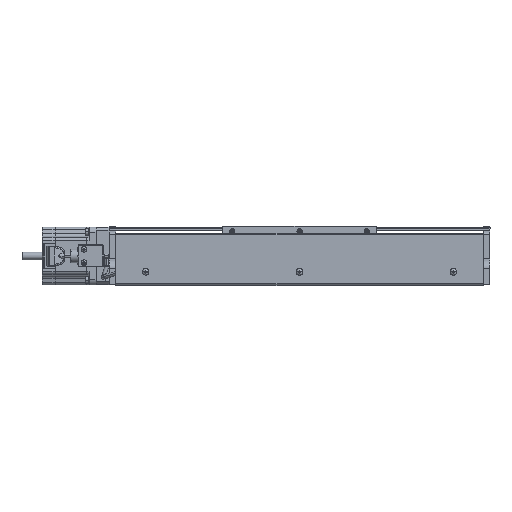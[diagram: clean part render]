
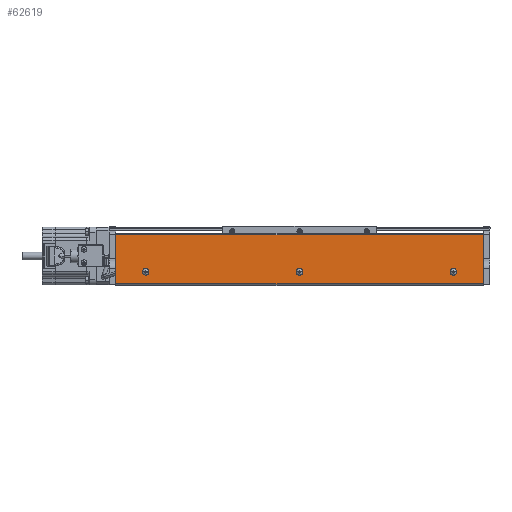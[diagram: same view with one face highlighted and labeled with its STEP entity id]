
A CAD part, front view. The second image highlights one B-rep face of the part: STEP entity #62619.
In plain terms, the highlighted planar face has unit normal (0, -1, 0).
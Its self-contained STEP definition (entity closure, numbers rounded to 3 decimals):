
#312 = DIRECTION ( 'NONE',  ( 1., 0., 0. ) ) ;
#428 = CARTESIAN_POINT ( 'NONE',  ( 8.216, -229.696, -224.369 ) ) ;
#686 = DIRECTION ( 'NONE',  ( 1., 0., 0. ) ) ;
#915 = LINE ( 'NONE', #29112, #77798 ) ;
#2147 = EDGE_CURVE ( 'NONE', #64292, #35777, #77229, .T. ) ;
#2193 = AXIS2_PLACEMENT_3D ( 'NONE', #428, #54217, #686 ) ;
#2446 = FACE_BOUND ( 'NONE', #46279, .T. ) ;
#4579 = CARTESIAN_POINT ( 'NONE',  ( 8.216, -229.696, -224.369 ) ) ;
#4700 = DIRECTION ( 'NONE',  ( 1., 0., 0. ) ) ;
#5249 = FACE_BOUND ( 'NONE', #62539, .T. ) ;
#5365 = DIRECTION ( 'NONE',  ( 1., 0., 0. ) ) ;
#5532 = EDGE_CURVE ( 'NONE', #55237, #38440, #27748, .T. ) ;
#7505 = CIRCLE ( 'NONE', #41321, 3.45 ) ;
#8450 = EDGE_CURVE ( 'NONE', #38440, #55237, #12201, .T. ) ;
#10960 = VERTEX_POINT ( 'NONE', #23895 ) ;
#11261 = CARTESIAN_POINT ( 'NONE',  ( -22.784, -229.696, -236.869 ) ) ;
#11625 = EDGE_LOOP ( 'NONE', ( #15393, #12060, #72808, #64913 ) ) ;
#12060 = ORIENTED_EDGE ( 'NONE', *, *, #38481, .T. ) ;
#12201 = CIRCLE ( 'NONE', #24207, 3.45 ) ;
#12252 = DIRECTION ( 'NONE',  ( -1., 0., 0. ) ) ;
#12533 = CARTESIAN_POINT ( 'NONE',  ( -22.784, -229.696, -184.869 ) ) ;
#14089 = ORIENTED_EDGE ( 'NONE', *, *, #31852, .F. ) ;
#14832 = CARTESIAN_POINT ( 'NONE',  ( 359.216, -229.696, -236.869 ) ) ;
#15393 = ORIENTED_EDGE ( 'NONE', *, *, #47615, .T. ) ;
#16167 = LINE ( 'NONE', #24600, #56514 ) ;
#18295 = VERTEX_POINT ( 'NONE', #54286 ) ;
#18417 = DIRECTION ( 'NONE',  ( 0., -1., 0. ) ) ;
#20044 = AXIS2_PLACEMENT_3D ( 'NONE', #61130, #18417, #312 ) ;
#20254 = CARTESIAN_POINT ( 'NONE',  ( 331.666, -229.696, -224.369 ) ) ;
#21738 = LINE ( 'NONE', #56117, #35831 ) ;
#22335 = EDGE_CURVE ( 'NONE', #33625, #31588, #16167, .T. ) ;
#23895 = CARTESIAN_POINT ( 'NONE',  ( 4.766, -229.696, -224.369 ) ) ;
#24207 = AXIS2_PLACEMENT_3D ( 'NONE', #29676, #41754, #59523 ) ;
#24592 = LINE ( 'NONE', #12533, #70533 ) ;
#24600 = CARTESIAN_POINT ( 'NONE',  ( -22.784, -229.696, -185.869 ) ) ;
#27264 = CARTESIAN_POINT ( 'NONE',  ( -22.784, -229.696, -185.869 ) ) ;
#27748 = CIRCLE ( 'NONE', #20044, 3.45 ) ;
#28218 = DIRECTION ( 'NONE',  ( 0., -1., 0. ) ) ;
#29112 = CARTESIAN_POINT ( 'NONE',  ( -22.784, -229.696, -236.869 ) ) ;
#29341 = EDGE_CURVE ( 'NONE', #18295, #10960, #7505, .T. ) ;
#29360 = CARTESIAN_POINT ( 'NONE',  ( 164.766, -229.696, -224.369 ) ) ;
#29676 = CARTESIAN_POINT ( 'NONE',  ( 168.216, -229.696, -224.369 ) ) ;
#30085 = ORIENTED_EDGE ( 'NONE', *, *, #8450, .F. ) ;
#31588 = VERTEX_POINT ( 'NONE', #27264 ) ;
#31852 = EDGE_CURVE ( 'NONE', #10960, #18295, #58559, .T. ) ;
#31901 = CIRCLE ( 'NONE', #31991, 3.45 ) ;
#31991 = AXIS2_PLACEMENT_3D ( 'NONE', #76374, #76900, #58856 ) ;
#33625 = VERTEX_POINT ( 'NONE', #57727 ) ;
#35777 = VERTEX_POINT ( 'NONE', #43960 ) ;
#35804 = CARTESIAN_POINT ( 'NONE',  ( 328.216, -229.696, -224.369 ) ) ;
#35831 = VECTOR ( 'NONE', #67103, 1000. ) ;
#38440 = VERTEX_POINT ( 'NONE', #29360 ) ;
#38481 = EDGE_CURVE ( 'NONE', #47565, #58161, #915, .T. ) ;
#41321 = AXIS2_PLACEMENT_3D ( 'NONE', #4579, #28218, #5365 ) ;
#41754 = DIRECTION ( 'NONE',  ( 0., -1., 0. ) ) ;
#42890 = DIRECTION ( 'NONE',  ( 0., -1., 0. ) ) ;
#43960 = CARTESIAN_POINT ( 'NONE',  ( 324.766, -229.696, -224.369 ) ) ;
#44251 = ORIENTED_EDGE ( 'NONE', *, *, #5532, .F. ) ;
#45471 = DIRECTION ( 'NONE',  ( 0., -1., 0. ) ) ;
#46279 = EDGE_LOOP ( 'NONE', ( #44251, #30085 ) ) ;
#47565 = VERTEX_POINT ( 'NONE', #11261 ) ;
#47615 = EDGE_CURVE ( 'NONE', #31588, #47565, #24592, .T. ) ;
#48144 = DIRECTION ( 'NONE',  ( 1., 0., 0. ) ) ;
#52466 = ORIENTED_EDGE ( 'NONE', *, *, #2147, .F. ) ;
#53760 = DIRECTION ( 'NONE',  ( 0., 0., -1. ) ) ;
#54217 = DIRECTION ( 'NONE',  ( 0., -1., 0. ) ) ;
#54286 = CARTESIAN_POINT ( 'NONE',  ( 11.666, -229.696, -224.369 ) ) ;
#55237 = VERTEX_POINT ( 'NONE', #57517 ) ;
#56117 = CARTESIAN_POINT ( 'NONE',  ( 359.216, -229.696, -184.869 ) ) ;
#56267 = ORIENTED_EDGE ( 'NONE', *, *, #71716, .F. ) ;
#56514 = VECTOR ( 'NONE', #12252, 1000. ) ;
#57517 = CARTESIAN_POINT ( 'NONE',  ( 171.666, -229.696, -224.369 ) ) ;
#57727 = CARTESIAN_POINT ( 'NONE',  ( 359.216, -229.696, -185.869 ) ) ;
#58161 = VERTEX_POINT ( 'NONE', #14832 ) ;
#58559 = CIRCLE ( 'NONE', #2193, 3.45 ) ;
#58856 = DIRECTION ( 'NONE',  ( 1., 0., 0. ) ) ;
#59523 = DIRECTION ( 'NONE',  ( 1., 0., 0. ) ) ;
#59557 = AXIS2_PLACEMENT_3D ( 'NONE', #68739, #45471, #74507 ) ;
#61130 = CARTESIAN_POINT ( 'NONE',  ( 168.216, -229.696, -224.369 ) ) ;
#61746 = EDGE_LOOP ( 'NONE', ( #52466, #56267 ) ) ;
#62539 = EDGE_LOOP ( 'NONE', ( #76748, #14089 ) ) ;
#62619 = ADVANCED_FACE ( 'NONE', ( #5249, #2446, #76517, #65266 ), #62733, .T. ) ;
#62733 = PLANE ( 'NONE',  #59557 ) ;
#64292 = VERTEX_POINT ( 'NONE', #20254 ) ;
#64548 = AXIS2_PLACEMENT_3D ( 'NONE', #35804, #42890, #48144 ) ;
#64913 = ORIENTED_EDGE ( 'NONE', *, *, #22335, .T. ) ;
#65266 = FACE_OUTER_BOUND ( 'NONE', #11625, .T. ) ;
#67103 = DIRECTION ( 'NONE',  ( 0., 0., -1. ) ) ;
#68739 = CARTESIAN_POINT ( 'NONE',  ( -22.784, -229.696, -184.869 ) ) ;
#70533 = VECTOR ( 'NONE', #53760, 1000. ) ;
#70831 = EDGE_CURVE ( 'NONE', #33625, #58161, #21738, .T. ) ;
#71716 = EDGE_CURVE ( 'NONE', #35777, #64292, #31901, .T. ) ;
#72808 = ORIENTED_EDGE ( 'NONE', *, *, #70831, .F. ) ;
#74507 = DIRECTION ( 'NONE',  ( 0., 0., -1. ) ) ;
#76374 = CARTESIAN_POINT ( 'NONE',  ( 328.216, -229.696, -224.369 ) ) ;
#76517 = FACE_BOUND ( 'NONE', #61746, .T. ) ;
#76748 = ORIENTED_EDGE ( 'NONE', *, *, #29341, .F. ) ;
#76900 = DIRECTION ( 'NONE',  ( 0., -1., 0. ) ) ;
#77229 = CIRCLE ( 'NONE', #64548, 3.45 ) ;
#77798 = VECTOR ( 'NONE', #4700, 1000. ) ;
